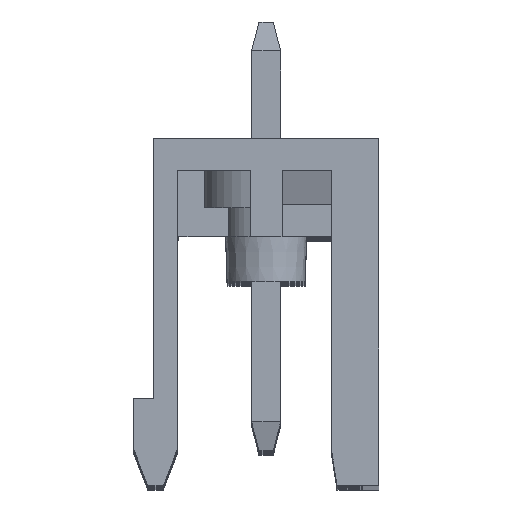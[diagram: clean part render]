
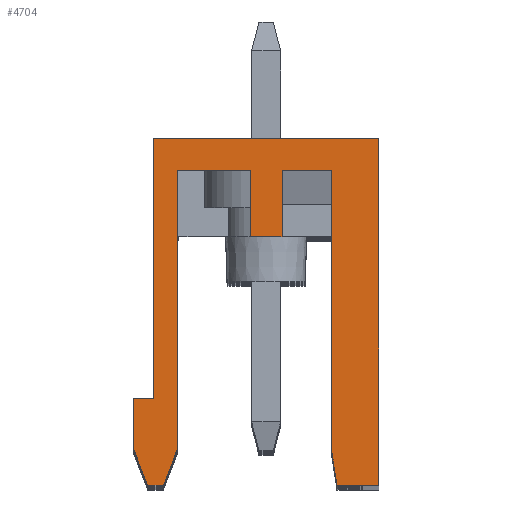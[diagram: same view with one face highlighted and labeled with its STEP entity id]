
A CAD part, top view. The second image highlights one B-rep face of the part: STEP entity #4704.
In plain terms, the highlighted planar face has unit normal (0, 0, 1).
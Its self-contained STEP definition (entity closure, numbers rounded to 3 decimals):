
#505 = CARTESIAN_POINT ( 'NONE',  ( 0.55, 8.6, 91.44 ) ) ;
#1014 = EDGE_CURVE ( 'NONE', #14770, #34604, #27377, .T. ) ;
#1343 = ORIENTED_EDGE ( 'NONE', *, *, #25696, .T. ) ;
#1499 = VECTOR ( 'NONE', #20775, 1000. ) ;
#1552 = CARTESIAN_POINT ( 'NONE',  ( -3.05, 10.9, 91.44 ) ) ;
#2157 = LINE ( 'NONE', #9185, #5834 ) ;
#2410 = ORIENTED_EDGE ( 'NONE', *, *, #26967, .T. ) ;
#2971 = VERTEX_POINT ( 'NONE', #9101 ) ;
#3037 = VERTEX_POINT ( 'NONE', #27269 ) ;
#3182 = EDGE_CURVE ( 'NONE', #24932, #27703, #22250, .T. ) ;
#3261 = CARTESIAN_POINT ( 'NONE',  ( 0.55, 8.6, 91.44 ) ) ;
#3654 = DIRECTION ( 'NONE',  ( 1., 0., 0. ) ) ;
#4581 = CARTESIAN_POINT ( 'NONE',  ( -3.05, 1.3, 91.44 ) ) ;
#4676 = VECTOR ( 'NONE', #34250, 1000. ) ;
#4704 = ADVANCED_FACE ( 'NONE', ( #44667 ), #34694, .T. ) ;
#4965 = CARTESIAN_POINT ( 'NONE',  ( -3.9, 3., 91.44 ) ) ;
#5000 = ORIENTED_EDGE ( 'NONE', *, *, #44446, .T. ) ;
#5176 = LINE ( 'NONE', #30366, #11875 ) ;
#5834 = VECTOR ( 'NONE', #23043, 1000. ) ;
#6066 = LINE ( 'NONE', #44458, #4676 ) ;
#6121 = ORIENTED_EDGE ( 'NONE', *, *, #41014, .F. ) ;
#6215 = ORIENTED_EDGE ( 'NONE', *, *, #15353, .T. ) ;
#6222 = CARTESIAN_POINT ( 'NONE',  ( 3.9, 12., 91.44 ) ) ;
#6513 = CARTESIAN_POINT ( 'NONE',  ( -10.2, 16.267, 91.44 ) ) ;
#7311 = DIRECTION ( 'NONE',  ( 0., 1., 0. ) ) ;
#7324 = EDGE_CURVE ( 'NONE', #21871, #15252, #15141, .T. ) ;
#8035 = VERTEX_POINT ( 'NONE', #3261 ) ;
#8261 = CARTESIAN_POINT ( 'NONE',  ( 2.25, 10.9, 91.44 ) ) ;
#9096 = DIRECTION ( 'NONE',  ( 0., -1., 0. ) ) ;
#9101 = CARTESIAN_POINT ( 'NONE',  ( 2.45, 0., 91.44 ) ) ;
#9146 = ORIENTED_EDGE ( 'NONE', *, *, #1014, .F. ) ;
#9185 = CARTESIAN_POINT ( 'NONE',  ( -3.05, 1.3, 91.44 ) ) ;
#9325 = LINE ( 'NONE', #23188, #13792 ) ;
#9478 = CARTESIAN_POINT ( 'NONE',  ( -4.1, 0., 91.44 ) ) ;
#10373 = CARTESIAN_POINT ( 'NONE',  ( 0.55, 8.6, 91.44 ) ) ;
#10376 = ORIENTED_EDGE ( 'NONE', *, *, #10753, .T. ) ;
#10569 = EDGE_CURVE ( 'NONE', #34488, #13611, #2157, .T. ) ;
#10572 = CARTESIAN_POINT ( 'NONE',  ( 0.55, 10.9, 91.44 ) ) ;
#10753 = EDGE_CURVE ( 'NONE', #14343, #29122, #13266, .T. ) ;
#11573 = CARTESIAN_POINT ( 'NONE',  ( 0.55, 10.9, 91.44 ) ) ;
#11875 = VECTOR ( 'NONE', #40824, 1000. ) ;
#12419 = VECTOR ( 'NONE', #13634, 1000. ) ;
#12937 = EDGE_CURVE ( 'NONE', #8035, #24932, #18197, .T. ) ;
#13038 = ORIENTED_EDGE ( 'NONE', *, *, #24079, .T. ) ;
#13266 = LINE ( 'NONE', #6222, #1499 ) ;
#13400 = CARTESIAN_POINT ( 'NONE',  ( 2.25, 1.3, 91.44 ) ) ;
#13453 = DIRECTION ( 'NONE',  ( 0., -1., 0. ) ) ;
#13611 = VERTEX_POINT ( 'NONE', #26289 ) ;
#13634 = DIRECTION ( 'NONE',  ( 0.152, -0.988, 0. ) ) ;
#13792 = VECTOR ( 'NONE', #3654, 1000. ) ;
#14236 = LINE ( 'NONE', #10373, #43076 ) ;
#14343 = VERTEX_POINT ( 'NONE', #44118 ) ;
#14345 = VECTOR ( 'NONE', #18547, 1000. ) ;
#14641 = VERTEX_POINT ( 'NONE', #4965 ) ;
#14751 = LINE ( 'NONE', #25428, #26888 ) ;
#14753 = EDGE_CURVE ( 'NONE', #15252, #34488, #6066, .T. ) ;
#14770 = VERTEX_POINT ( 'NONE', #9478 ) ;
#14887 = VECTOR ( 'NONE', #25435, 1000. ) ;
#14889 = VECTOR ( 'NONE', #36608, 1000. ) ;
#15141 = LINE ( 'NONE', #32418, #14345 ) ;
#15252 = VERTEX_POINT ( 'NONE', #1552 ) ;
#15257 = LINE ( 'NONE', #21869, #14889 ) ;
#15347 = ORIENTED_EDGE ( 'NONE', *, *, #14753, .F. ) ;
#15353 = EDGE_CURVE ( 'NONE', #21871, #18303, #5176, .T. ) ;
#16044 = VECTOR ( 'NONE', #9096, 1000. ) ;
#16870 = LINE ( 'NONE', #44570, #17333 ) ;
#17333 = VECTOR ( 'NONE', #13453, 1000. ) ;
#17387 = DIRECTION ( 'NONE',  ( -0.359, 0.933, 0. ) ) ;
#18197 = LINE ( 'NONE', #505, #23312 ) ;
#18303 = VERTEX_POINT ( 'NONE', #21249 ) ;
#18547 = DIRECTION ( 'NONE',  ( -1., 0., 0. ) ) ;
#19825 = DIRECTION ( 'NONE',  ( 1., 0., 0. ) ) ;
#20329 = ORIENTED_EDGE ( 'NONE', *, *, #7324, .F. ) ;
#20374 = DIRECTION ( 'NONE',  ( 1., 0., 0. ) ) ;
#20775 = DIRECTION ( 'NONE',  ( -1., 0., 0. ) ) ;
#21069 = EDGE_LOOP ( 'NONE', ( #5000, #10376, #13038, #31085, #2410, #9146, #1343, #43313, #15347, #20329, #6215, #6121, #35399, #37417, #31080, #35689, #23386 ) ) ;
#21249 = CARTESIAN_POINT ( 'NONE',  ( -0.55, 8.6, 91.44 ) ) ;
#21869 = CARTESIAN_POINT ( 'NONE',  ( 3.9, 0., 91.44 ) ) ;
#21871 = VERTEX_POINT ( 'NONE', #28035 ) ;
#21969 = CARTESIAN_POINT ( 'NONE',  ( 2.25, 10.9, 91.44 ) ) ;
#22250 = LINE ( 'NONE', #11573, #14887 ) ;
#23043 = DIRECTION ( 'NONE',  ( -0.359, -0.933, 0. ) ) ;
#23188 = CARTESIAN_POINT ( 'NONE',  ( -4.1, 0., 91.44 ) ) ;
#23312 = VECTOR ( 'NONE', #7311, 1000. ) ;
#23386 = ORIENTED_EDGE ( 'NONE', *, *, #35375, .T. ) ;
#24079 = EDGE_CURVE ( 'NONE', #29122, #14641, #16870, .T. ) ;
#24932 = VERTEX_POINT ( 'NONE', #10572 ) ;
#25149 = EDGE_CURVE ( 'NONE', #27703, #36322, #39400, .T. ) ;
#25428 = CARTESIAN_POINT ( 'NONE',  ( -3.9, 3., 91.44 ) ) ;
#25435 = DIRECTION ( 'NONE',  ( 1., 0., 0. ) ) ;
#25696 = EDGE_CURVE ( 'NONE', #14770, #13611, #9325, .T. ) ;
#26142 = CARTESIAN_POINT ( 'NONE',  ( -4.6, 1.3, 91.44 ) ) ;
#26289 = CARTESIAN_POINT ( 'NONE',  ( -3.55, 0., 91.44 ) ) ;
#26888 = VECTOR ( 'NONE', #39297, 1000. ) ;
#26967 = EDGE_CURVE ( 'NONE', #37011, #34604, #35918, .T. ) ;
#27061 = EDGE_CURVE ( 'NONE', #36322, #2971, #37269, .T. ) ;
#27269 = CARTESIAN_POINT ( 'NONE',  ( 3.9, 0., 91.44 ) ) ;
#27377 = LINE ( 'NONE', #44631, #28064 ) ;
#27703 = VERTEX_POINT ( 'NONE', #21969 ) ;
#27850 = DIRECTION ( 'NONE',  ( 0., 0., 1. ) ) ;
#28035 = CARTESIAN_POINT ( 'NONE',  ( -0.55, 10.9, 91.44 ) ) ;
#28064 = VECTOR ( 'NONE', #17387, 1000. ) ;
#29122 = VERTEX_POINT ( 'NONE', #35339 ) ;
#29604 = DIRECTION ( 'NONE',  ( 0., -1., 0. ) ) ;
#30366 = CARTESIAN_POINT ( 'NONE',  ( -0.55, 10.9, 91.44 ) ) ;
#31080 = ORIENTED_EDGE ( 'NONE', *, *, #25149, .T. ) ;
#31085 = ORIENTED_EDGE ( 'NONE', *, *, #34833, .T. ) ;
#32418 = CARTESIAN_POINT ( 'NONE',  ( -0.55, 10.9, 91.44 ) ) ;
#34250 = DIRECTION ( 'NONE',  ( 0., -1., 0. ) ) ;
#34488 = VERTEX_POINT ( 'NONE', #4581 ) ;
#34604 = VERTEX_POINT ( 'NONE', #26142 ) ;
#34694 = PLANE ( 'NONE',  #41103 ) ;
#34833 = EDGE_CURVE ( 'NONE', #14641, #37011, #14751, .T. ) ;
#35133 = DIRECTION ( 'NONE',  ( -1., 0., 0. ) ) ;
#35339 = CARTESIAN_POINT ( 'NONE',  ( -3.9, 12., 91.44 ) ) ;
#35375 = EDGE_CURVE ( 'NONE', #2971, #3037, #37332, .T. ) ;
#35399 = ORIENTED_EDGE ( 'NONE', *, *, #12937, .T. ) ;
#35617 = VECTOR ( 'NONE', #19825, 1000. ) ;
#35689 = ORIENTED_EDGE ( 'NONE', *, *, #27061, .T. ) ;
#35918 = LINE ( 'NONE', #43414, #16044 ) ;
#36322 = VERTEX_POINT ( 'NONE', #40853 ) ;
#36608 = DIRECTION ( 'NONE',  ( 0., 1., 0. ) ) ;
#37011 = VERTEX_POINT ( 'NONE', #44092 ) ;
#37269 = LINE ( 'NONE', #13400, #12419 ) ;
#37332 = LINE ( 'NONE', #43476, #35617 ) ;
#37417 = ORIENTED_EDGE ( 'NONE', *, *, #3182, .T. ) ;
#37697 = VECTOR ( 'NONE', #29604, 1000. ) ;
#39297 = DIRECTION ( 'NONE',  ( -1., 0., 0. ) ) ;
#39400 = LINE ( 'NONE', #8261, #37697 ) ;
#40824 = DIRECTION ( 'NONE',  ( 0., -1., 0. ) ) ;
#40853 = CARTESIAN_POINT ( 'NONE',  ( 2.25, 1.3, 91.44 ) ) ;
#41014 = EDGE_CURVE ( 'NONE', #8035, #18303, #14236, .T. ) ;
#41103 = AXIS2_PLACEMENT_3D ( 'NONE', #6513, #27850, #20374 ) ;
#43076 = VECTOR ( 'NONE', #35133, 1000. ) ;
#43313 = ORIENTED_EDGE ( 'NONE', *, *, #10569, .F. ) ;
#43414 = CARTESIAN_POINT ( 'NONE',  ( -4.6, 3., 91.44 ) ) ;
#43476 = CARTESIAN_POINT ( 'NONE',  ( 2.45, 0., 91.44 ) ) ;
#44092 = CARTESIAN_POINT ( 'NONE',  ( -4.6, 3., 91.44 ) ) ;
#44118 = CARTESIAN_POINT ( 'NONE',  ( 3.9, 12., 91.44 ) ) ;
#44446 = EDGE_CURVE ( 'NONE', #3037, #14343, #15257, .T. ) ;
#44458 = CARTESIAN_POINT ( 'NONE',  ( -3.05, 10.9, 91.44 ) ) ;
#44570 = CARTESIAN_POINT ( 'NONE',  ( -3.9, 12., 91.44 ) ) ;
#44631 = CARTESIAN_POINT ( 'NONE',  ( -4.1, 0., 91.44 ) ) ;
#44667 = FACE_OUTER_BOUND ( 'NONE', #21069, .T. ) ;
